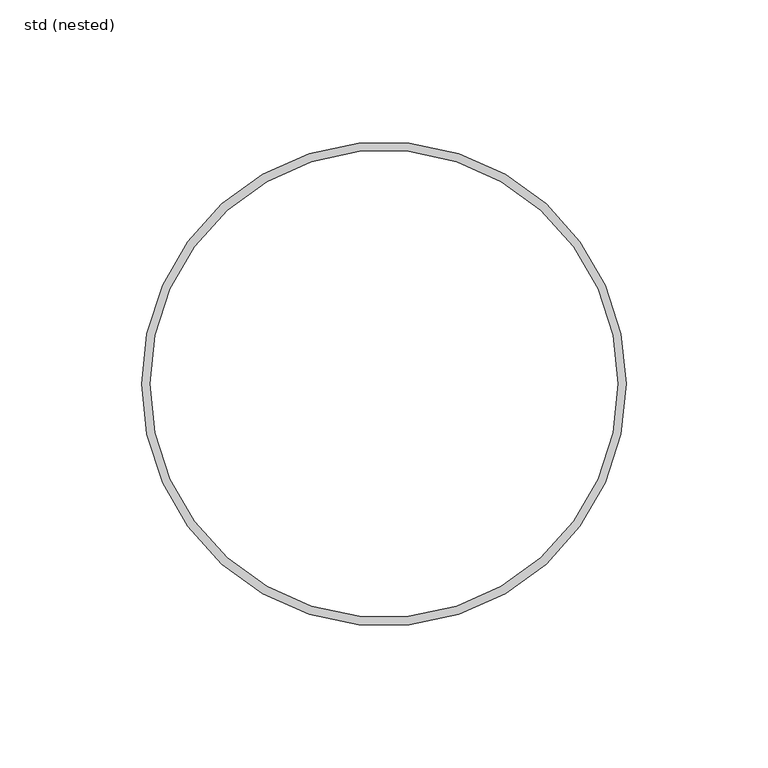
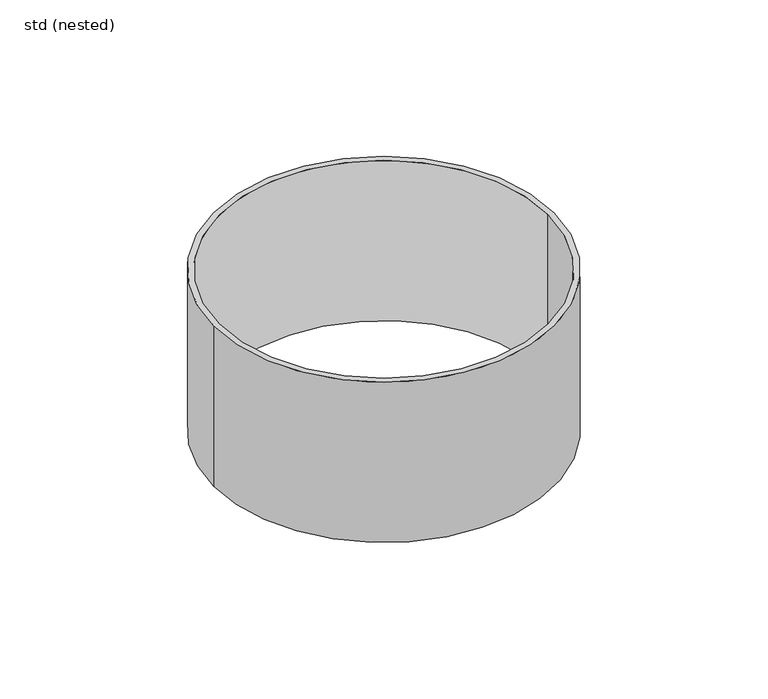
"""IFC4 building model written with IfcOpenShell, lengths in millimetres: pipe fitting geometry, ZZZ_do not use_PIF_ST_WPB_GM-X compound pipe clamp_ACO : std (nested)."""

from ifc_helpers import new_model, si_unit, point, frame, origin, origin_2d, place, context, project, spatial, circle_curve, trimmed, segment, composite_curve, outline, extrude, source, transform, mapped, element, save


def std_nested_90d89c33(model_context):
    return source(origin(), model_context, "Body", "SweptSolid", [
        extrude(outline(composite_curve([segment(trimmed(circle_curve(origin_2d(), 85.5), [point((85.5, 0.0))], [point((-85.5, 0.0))], False, "CARTESIAN"), True, "CONTINUOUS"), segment(trimmed(circle_curve(origin_2d(), 85.5), [point((-85.5, 0.0))], [point((85.5, 0.0))], False, "CARTESIAN"), True, "CONTINUOUS")], self_intersect=False), holes=[composite_curve([segment(trimmed(circle_curve(origin_2d(), 82.5), [point((82.5, 0.0))], [point((-82.5, 0.0))], True, "CARTESIAN"), True, "CONTINUOUS"), segment(trimmed(circle_curve(origin_2d(), 82.5), [point((-82.5, 0.0))], [point((82.5, 0.0))], True, "CARTESIAN"), True, "CONTINUOUS")], self_intersect=False)]), frame((0.0, 0.0, -63.75), z_axis=(0.0, 0.0, 1.0), x_axis=(1.0, 0.0, 0.0)), (0.0, 0.0, 1.0), 85.0),
    ])


if __name__ == "__main__":
    model = new_model("IFC4")
    model_context = context("Model", 3, world=origin())
    ifc_project = project(units=[si_unit("LENGTHUNIT", "METRE", prefix="MILLI")], contexts=[model_context])
    site = spatial("IfcSite", under=ifc_project)
    building = spatial("IfcBuilding", under=site)
    placement = place(None, origin())
    std_nested_shape = std_nested_90d89c33(model_context)
    element("IfcPipeFitting", 1, ObjectType="ZZZ_do not use_PIF_ST_WPB_GM-X compound pipe clamp_ACO : std (nested)", at=placement, inside=building, context=model_context, shape_type="MappedRepresentation", body=[
        mapped(std_nested_shape, transform((0.0, 0.0, 0.0), x_axis=(1.0, 0.0, 0.0), y_axis=(0.0, 1.0, 0.0), z_axis=(0.0, 0.0, 1.0))),
    ])
    save(model, "model.ifc")
